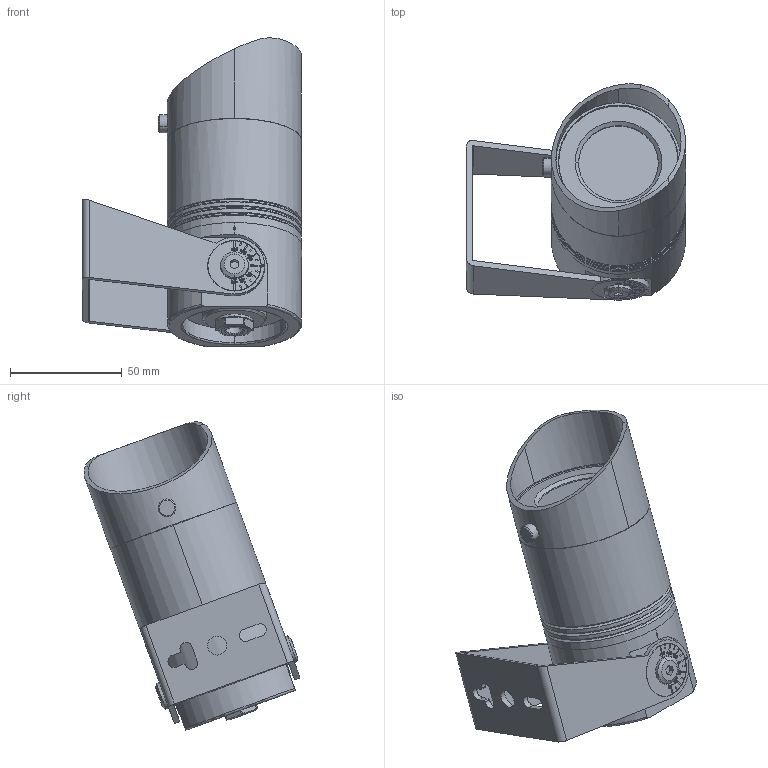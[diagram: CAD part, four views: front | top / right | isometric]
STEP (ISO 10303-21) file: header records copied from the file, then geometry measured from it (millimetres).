
FILE_DESCRIPTION((''),'2;1');
FILE_NAME('B3ADX0127_ASM','2026-03-06T14:09:31',('C164'),(''),'CREO PARAMETRIC BY PTC INC, 2021063','CREO PARAMETRIC BY PTC INC, 2021063','');
FILE_SCHEMA(('CONFIG_CONTROL_DESIGN'));
Length unit declared in the file: millimetre
Products named in the file (29): B3AB_60__O______L_11_1_9; B3AB_60_________L_10_1_1; B71-TJ_10_1_1; B71-TJT_10_1_2; B71_ASM_10_ASM_1_ASM_1_ASM; B3AB_60__O_________B___N_10_1_1; B3AB_60__B___N_10_2_4; 60-XKM_ASM_10_ASM_1_ASM_1_ASM; TJDQ_4_1_1; OXQ_4_1_1; HG-O_4_1_1; DZ_4_1_1; B3BB_1_1_1_2_3_3_1_1; B3AB_80_M3____I_10_1_1; 2FU-MZ_2_1_1; 3AD_HOUGAI-0618_5_1; SCREW-M12_1_18_2_1_1; XINGUIJIAO_14_2_1_1; GUIJIAOSAI-005_8_2_1_1; LUOMUZUJIAN_ASM_14_ASM_2_ASM_1__ASM; M14__ASM_2_ASM_1_ASM_1_ASM; 3AD-CHIKUAI_4_1; 3AD-ZHIJIA-0731_9_1; 3AD-KDP-01_2_1; DB-M6-8_2_1; B3AB_60____A_____20_ASM_37_ASM__ASM; 3AD_ASM_6_ASM_2_ASM; 3AD_ASM_ASM_2_ASM; B3ADX0127_ASM
Assembly tree (30 placements, depth 7):
  B3ADX0127_ASM
    3AD_ASM_ASM_2_ASM
      3AD_ASM_6_ASM_2_ASM
        B3AB_60____A_____20_ASM_37_ASM__ASM
          B3AB_60__O______L_11_1_9
          B3AB_60_________L_10_1_1
          B71_ASM_10_ASM_1_ASM_1_ASM
            B71-TJ_10_1_1
            B71-TJT_10_1_2
          60-XKM_ASM_10_ASM_1_ASM_1_ASM
            B3AB_60__O_________B___N_10_1_1
            B3AB_60__B___N_10_2_4
          TJDQ_4_1_1
          OXQ_4_1_1
          HG-O_4_1_1
          DZ_4_1_1
          B3BB_1_1_1_2_3_3_1_1
          B3AB_80_M3____I_10_1_1
          2FU-MZ_2_1_1
          3AD_HOUGAI-0618_5_1
          M14__ASM_2_ASM_1_ASM_1_ASM
            LUOMUZUJIAN_ASM_14_ASM_2_ASM_1__ASM
              SCREW-M12_1_18_2_1_1
              XINGUIJIAO_14_2_1_1
              GUIJIAOSAI-005_8_2_1_1
          3AD-CHIKUAI_4_1  x2
          3AD-ZHIJIA-0731_9_1
          3AD-KDP-01_2_1
          DB-M6-8_2_1  x2
Bounding box: 98 x 96.56 x 138 mm (x, y, z)
Volume: 191992.1 mm3; surface area: 118500.3 mm2
Topology: 23 solids, 24 shells, 1772 faces, 4796 edges, 3164 vertices
Faces by surface type: plane 954, extrusion 284, cylinder 248, cone 170, torus 64, bspline 30, sphere 22
Entity records: 55049 total; most frequent: CARTESIAN_POINT 15250, ORIENTED_EDGE 8500, DIRECTION 7495, EDGE_CURVE 4250, VERTEX_POINT 2826, VECTOR 2651, AXIS2_PLACEMENT_3D 2422, LINE 2367
